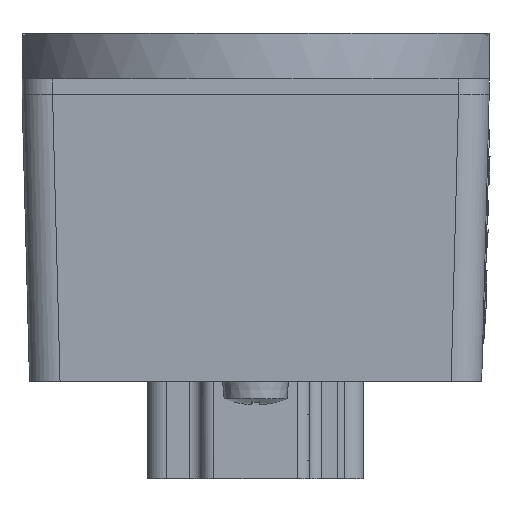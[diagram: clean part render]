
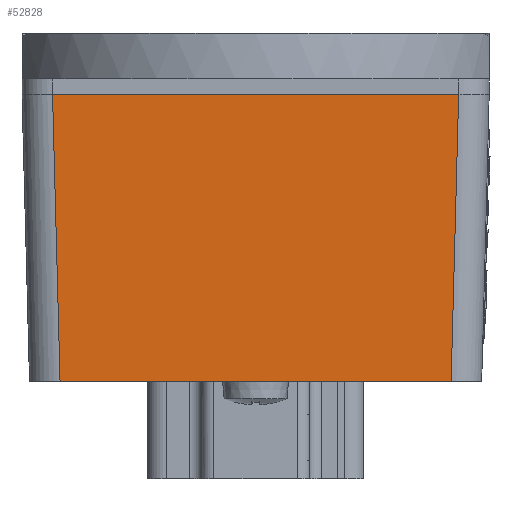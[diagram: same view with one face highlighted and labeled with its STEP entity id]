
A CAD part, left-side view. The second image highlights one B-rep face of the part: STEP entity #52828.
In plain terms, the highlighted planar face has unit normal (-1, 0, -0.026).
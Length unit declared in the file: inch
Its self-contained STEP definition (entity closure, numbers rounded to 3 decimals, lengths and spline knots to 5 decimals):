
#51548=CARTESIAN_POINT('',(-1.731,0.83104,1.175));
#51549=VERTEX_POINT('',#51548);
#51556=CARTESIAN_POINT('',(-1.731,-0.83104,1.175));
#51557=VERTEX_POINT('',#51556);
#51558=CARTESIAN_POINT('',(-1.731,-0.83104,1.175));
#51559=DIRECTION('',(0.0,1.0,0.0));
#51560=VECTOR('',#51559,1.66209);
#51561=LINE('',#51558,#51560);
#51562=EDGE_CURVE('',#51557,#51549,#51561,.T.);
#52589=CARTESIAN_POINT('',(-1.70023,-0.80027,0.));
#52590=VERTEX_POINT('',#52589);
#52591=CARTESIAN_POINT('',(-1.731,-0.83104,1.175));
#52592=DIRECTION('',(0.026,0.026,-0.999));
#52593=VECTOR('',#52592,1.17581);
#52594=LINE('',#52591,#52593);
#52595=EDGE_CURVE('',#51557,#52590,#52594,.T.);
#52655=CARTESIAN_POINT('',(-1.70023,0.80027,0.));
#52656=VERTEX_POINT('',#52655);
#52657=CARTESIAN_POINT('',(-1.70023,-0.80027,0.));
#52658=DIRECTION('',(0.0,1.0,0.0));
#52659=VECTOR('',#52658,1.60055);
#52660=LINE('',#52657,#52659);
#52661=EDGE_CURVE('',#52590,#52656,#52660,.T.);
#52808=CARTESIAN_POINT('',(-1.70023,0.80027,0.0));
#52809=DIRECTION('',(-0.026,0.026,0.999));
#52810=VECTOR('',#52809,1.17581);
#52811=LINE('',#52808,#52810);
#52812=EDGE_CURVE('',#52656,#51549,#52811,.T.);
#52817=CARTESIAN_POINT('',(-1.70024,-0.956,0.0004));
#52818=DIRECTION('',(-1.,0.0,-0.026));
#52819=DIRECTION('',(-0.026,0.0,1.));
#52820=AXIS2_PLACEMENT_3D('',#52817,#52818,#52819);
#52821=PLANE('',#52820);
#52822=ORIENTED_EDGE('',*,*,#52595,.F.);
#52823=ORIENTED_EDGE('',*,*,#51562,.T.);
#52824=ORIENTED_EDGE('',*,*,#52812,.F.);
#52825=ORIENTED_EDGE('',*,*,#52661,.F.);
#52826=EDGE_LOOP('',(#52822,#52823,#52824,#52825));
#52827=FACE_OUTER_BOUND('',#52826,.T.);
#52828=ADVANCED_FACE('',(#52827),#52821,.T.);
